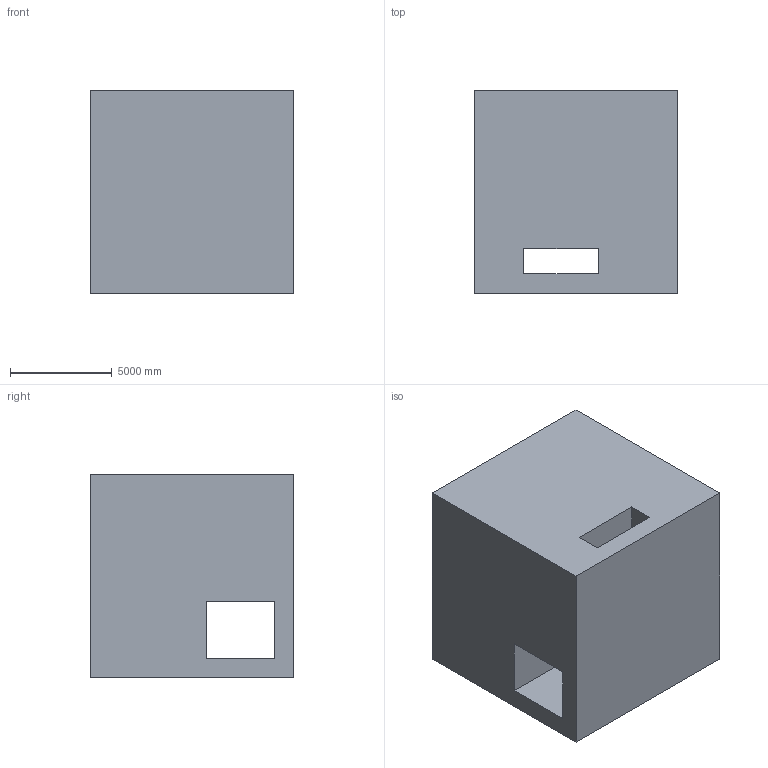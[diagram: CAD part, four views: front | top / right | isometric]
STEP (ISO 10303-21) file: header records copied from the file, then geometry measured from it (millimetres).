
FILE_DESCRIPTION (( 'STEP AP203' ), '1' );
FILE_NAME ('1106.STEP', '2022-08-18T12:47:06', ( 'user' ), ( '' ), 'SwSTEP 2.0', 'SolidWorks 2021', '' );
FILE_SCHEMA (( 'CONFIG_CONTROL_DESIGN' ));
Length unit declared in the file: centimetre
Products named in the file (1): 1106
Bounding box: 10000 x 10000 x 10000 mm (x, y, z)
Volume: 872075611195.3 mm3; surface area: 757183832.5 mm2
Topology: 1 solids, 1 shells, 18 faces, 48 edges, 32 vertices
Faces by surface type: plane 18
Entity records: 641 total; most frequent: CARTESIAN_POINT 99, ORIENTED_EDGE 96, DIRECTION 86, EDGE_CURVE 48, VECTOR 48, LINE 48, VERTEX_POINT 32, EDGE_LOOP 24
